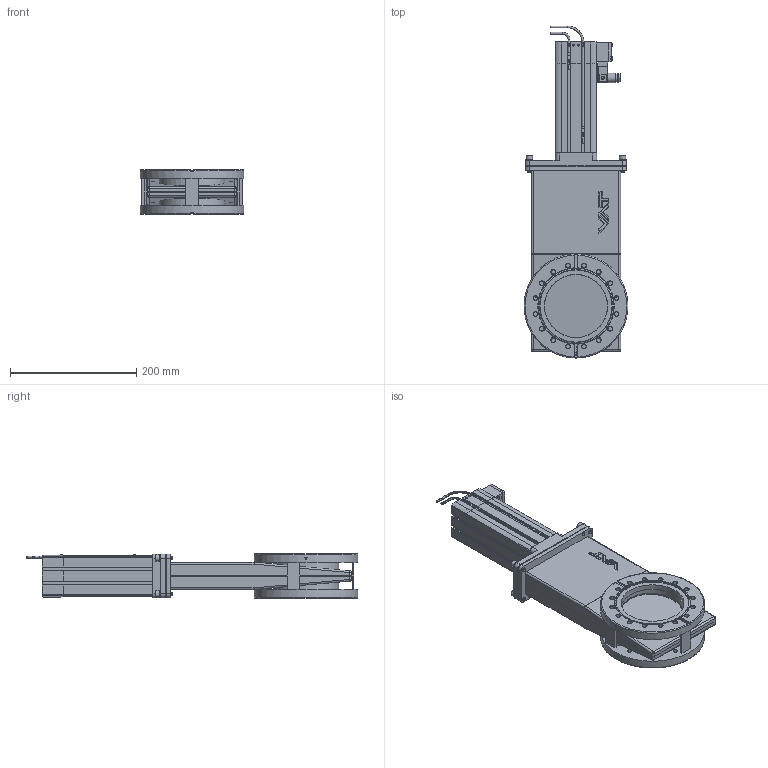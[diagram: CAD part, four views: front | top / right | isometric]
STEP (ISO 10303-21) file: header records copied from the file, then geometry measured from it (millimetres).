
FILE_DESCRIPTION(/* description */ (''),/* implementation_level */ '2;1');
FILE_NAME(/* name */ '1483028350_203.stp',/* time_stamp */ '2019-11-25T09:04:49+01:00',/* author */ (''),/* organization */ (''),/* preprocessor_version */ 'ST-DEVELOPER v16',/* originating_system */ 'SIEMENS PLM Software NX 11.0',/* authorisation */ '');
FILE_SCHEMA (('AP203_CONFIGURATION_CONTROLLED_3D_DESIGN_OF_MECHANICAL_PARTS_AND_ASSEMBLIES_MIM_LF { 1 0 10303 403 2 1 2}'));
Length unit declared in the file: millimetre
Products named in the file (33): 467882; 437235; 461638_29426ID; 487660; 461638_29434ID; 251261.12_27867ID; 251260.4_27870ID; 251261.12_27871ID; N-7557-016_1.1; N-7557-018.1; N-7557-016_2.1; N-6024-524.1; N-5018-005.1; 707261; 706312; n-6091-472.1; 589964; 309091.5_67588ID; 251262.4; 251259.6; 309091.5_67596ID; 218189; n-6134-408; 250214.4; N-7557-016_3.1_MODELNX-ARRAGMNTArrangement 1; 94800-R1.7_NX-ARRAGMNTKONFIG1; 759778_NX-ARRAGMNTAbstand_127; 759778_NX-ARRAGMNTAbstand_10; 706311_NX-ARRAGMNTAntrieb_v2_09x40-DN100, 2xLM Kabelaustritt hinten; 527368_MODELNX-ARRAGMNTMassbild; 251258.9; 309245.6; 709841
Assembly tree (49 placements, depth 4):
  709841
    309245.6
      309091.5_67596ID
      251259.6  x2
      251262.4  x3
      251258.9
        251261.12_27871ID
        251260.4_27870ID
        251261.12_27867ID
      309091.5_67588ID
    527368_MODELNX-ARRAGMNTMassbild
      589964
      n-6091-472.1  x2
    250214.4
    n-6134-408  x4
    218189  x4
    706311_NX-ARRAGMNTAntrieb_v2_09x40-DN100, 2xLM Kabelaustritt hinten
      706312
      707261
      759778_NX-ARRAGMNTAbstand_10
        461638_29434ID
        487660
      759778_NX-ARRAGMNTAbstand_127
        461638_29426ID
        487660
    94800-R1.7_NX-ARRAGMNTKONFIG1
      N-5018-005.1  x2
      N-6024-524.1  x6
      N-7557-016_2.1
      N-7557-018.1
      N-7557-016_1.1
      N-7557-016_3.1_MODELNX-ARRAGMNTArrangement 1
        437235
        467882
Bounding box: 164.8 x 526.85 x 70 mm (x, y, z)
Volume: 1323250.2 mm3; surface area: 722640.3 mm2
Topology: 51 solids, 53 shells, 2239 faces, 5901 edges, 3893 vertices
Faces by surface type: plane 1349, cylinder 596, cone 124, bspline 85, torus 43, sphere 33, extrusion 9
Full cylindrical faces by diameter (mm): 1 x4, 1.2 x2, 2.3 x2, 2.5 x7, 2.9 x1, 3 x9, 3.2 x2, 3.4 x4, 3.5 x3, 3.8 x5, 4 x3, 4.2 x2, 4.22 x1, 4.96 x4, 5 x13, 5.1 x2, 5.22 x4, 5.4 x1, 5.774 x1, 6 x16, 6.4 x4, 6.5 x8, 6.8 x3, 6.909 x32, 7 x2, 7.2 x1, 8 x2, 8.1 x1, 8.566 x1, 8.8 x2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
Entity records: 73247 total; most frequent: CARTESIAN_POINT 21592, ORIENTED_EDGE 9138, DIRECTION 8892, EDGE_CURVE 4569, VERTEX_POINT 3180, AXIS2_PLACEMENT_3D 3170, VECTOR 2552, LINE 2543
